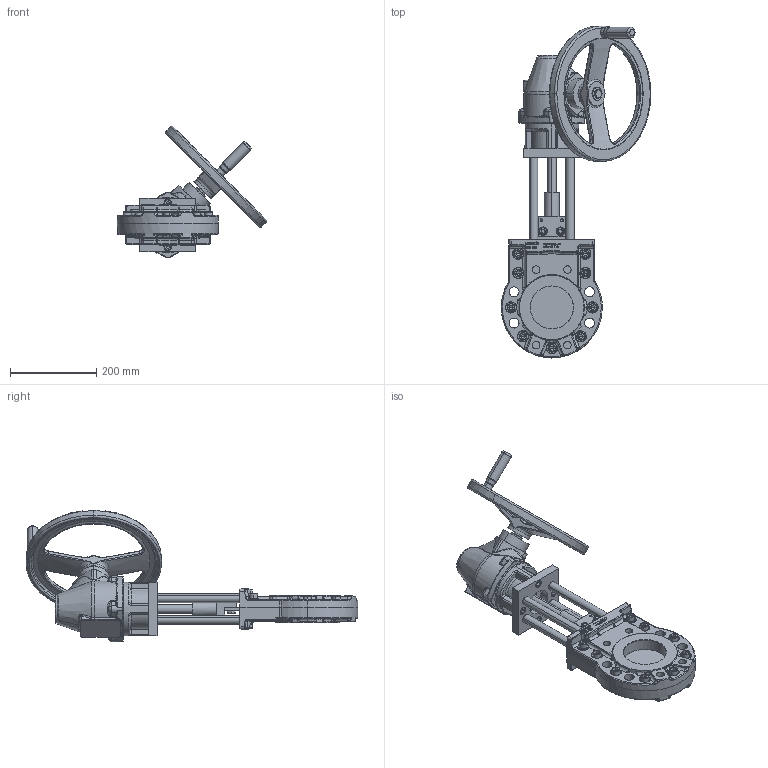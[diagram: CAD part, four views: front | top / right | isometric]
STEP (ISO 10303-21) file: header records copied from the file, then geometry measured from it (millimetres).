
FILE_DESCRIPTION (( 'STEP AP214' ), '1' );
FILE_NAME ('MHA DN 100 GK10.2.STEP', '2015-04-28T08:43:47', ( 'admin' ), ( 'Hewlett-Packard Company' ), 'SwSTEP 2.0', 'SolidWorks 2013', '' );
FILE_SCHEMA (( 'AUTOMOTIVE_DESIGN' ));
Length unit declared in the file: millimetre
Products named in the file (1): MHA DN 100 GK10.2
Bounding box: 347.41 x 771.5 x 306.24 mm (x, y, z)
Volume: 6139375.7 mm3; surface area: 703690.6 mm2
Topology: 33 solids, 45 shells, 2389 faces, 5762 edges, 3396 vertices
Faces by surface type: plane 780, cylinder 589, bspline 430, cone 310, torus 272, sphere 8
Entity records: 113852 total; most frequent: CARTESIAN_POINT 34455, ORIENTED_EDGE 11124, DIRECTION 10873, EDGE_CURVE 5562, AXIS2_PLACEMENT_3D 4272, VERTEX_POINT 3396, EDGE_LOOP 2584, UNCERTAINTY_MEASURE_WITH_UNIT 2422
